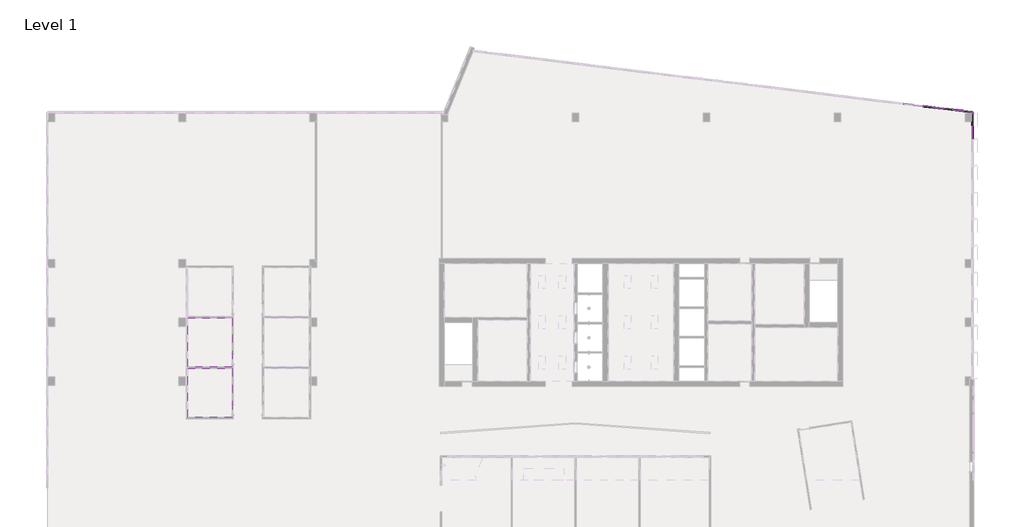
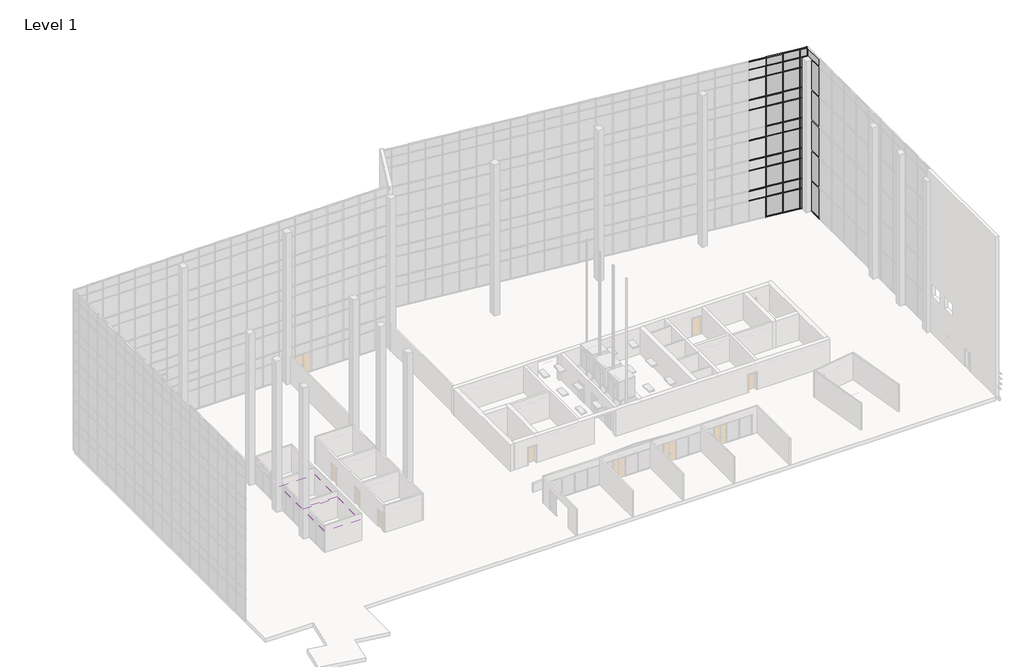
# One storey, part 22 of 23: 73 members, 39 plates, 2 coverings.
"""IFC4 building model written with IfcOpenShell, lengths in millimetres."""

from ifc_helpers import new_model, si_unit, frame, origin, place, context, project, spatial, polyline, outline, extrude, transform, mapped, element, save
from components import member_eccb456b, member_2b49869a, member_f92b8aa2, member_810865a4, member_f0fea5a5, member_6d5c3e5e, member_9764dd38, member_b8a9be14, member_51d7af99, member_28d637ce, member_84e75425, member_62aeda4f, member_2ab0c01c, system_panel_glazed_14c75400, system_panel_glazed_cc37a7cc, system_panel_glazed_4e55321f, system_panel_glazed_949c9f91, system_panel_solid_5dfe6f83, system_panel_solid_e25e2004, system_panel_solid_b7551183, system_panel_solid_72787f54, system_panel_solid_2f76c253, system_panel_solid_3860f7db

model = new_model("IFC4")

# Units and contexts
model_context = context("Model", 3, world=origin())
ifc_project = project(units=[si_unit("LENGTHUNIT", "METRE", prefix="MILLI")], contexts=[model_context])

# Site, building, storey
site = spatial("IfcSite", under=ifc_project)
building = spatial("IfcBuilding", under=site)
storey = spatial("IfcBuildingStorey", under=building, Name="Level 1", Elevation=0.0)

# Coverings
placement = place(None, origin())
element("IfcCovering", 1, ObjectType="2' x 2' ACT System", at=placement, inside=storey, context=model_context, shape_type="SweptSolid", body=[
    extrude(outline(polyline([(-51987.0856498, -17655.5103492), (-56000.2856498, -17655.5103492), (-56000.2856498, -13210.5103492), (-51987.0856498, -13210.5103492), (-51987.0856498, -17655.5103492)])), frame((0.0, 0.0, 2438.4), z_axis=(0.0, 0.0, 1.0), x_axis=(1.0, 0.0, 0.0)), (0.0, 0.0, 1.0), 57.15),
])
element("IfcCovering", 2, ObjectType="2' x 2' ACT System", at=placement, inside=storey, context=model_context, shape_type="SweptSolid", body=[
    extrude(outline(polyline([(-56000.2856498, -13083.5103492), (-56000.2856498, -8638.5103492), (-51987.0856498, -8638.5103492), (-51987.0856498, -13083.5103492), (-56000.2856498, -13083.5103492)])), frame((0.0, 0.0, 2438.4), z_axis=(0.0, 0.0, 1.0), x_axis=(1.0, 0.0, 0.0)), (0.0, 0.0, 1.0), 57.15),
])

# Members
member_shape = member_eccb456b(model_context)
element("IfcMember", 3, ObjectType="Quad Corner Mullion : 5\" x 5\" Quad Corner", at=placement, inside=storey, context=model_context, shape_type="MappedRepresentation", body=[
    mapped(member_shape, transform((15106.8054088, 9928.5486536, 0.0), x_axis=(0.0, 0.0, -1.0), y_axis=(-1.0, 0.0, 0.0), z_axis=(0.0, 1.0, 0.0))),
])
member_2_shape = member_2b49869a(model_context)
element("IfcMember", 4, ObjectType="Rectangular Mullion : 2.5\" x 5\" rectangular", at=placement, inside=storey, context=model_context, shape_type="MappedRepresentation", body=[
    mapped(member_2_shape, transform((12451.1844641, 10342.5479595, 2438.4), x_axis=(0.9925461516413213, -0.12186934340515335, 0.0), y_axis=(-0.12186934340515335, -0.9925461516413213, 0.0), z_axis=(0.0, 0.0, -1.0))),
])
member_3_shape = member_f92b8aa2(model_context)
element("IfcMember", 5, ObjectType="Rectangular Mullion : 2.5\" x 5\" rectangular", at=placement, inside=storey, context=model_context, shape_type="MappedRepresentation", body=[
    mapped(member_3_shape, transform((14266.3528662, 10119.6733043, 18288.0), x_axis=(0.9925461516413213, -0.12186934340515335, 0.0), y_axis=(-0.12186934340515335, -0.9925461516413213, 0.0), z_axis=(0.0, 0.0, -1.0))),
])
element("IfcMember", 6, ObjectType="Rectangular Mullion : 2.5\" x 5\" rectangular", at=placement, inside=storey, context=model_context, shape_type="MappedRepresentation", body=[
    mapped(member_3_shape, transform((12451.1844641, 10342.5479595, 18288.0), x_axis=(0.9925461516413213, -0.12186934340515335, 0.0), y_axis=(-0.12186934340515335, -0.9925461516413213, 0.0), z_axis=(0.0, 0.0, -1.0))),
])
member_4_shape = member_810865a4(model_context)
element("IfcMember", 7, ObjectType="Rectangular Mullion : 2.5\" x 5\" rectangular", at=placement, inside=storey, context=model_context, shape_type="MappedRepresentation", body=[
    mapped(member_4_shape, transform((14266.3528662, 10119.6733043, 14630.4), x_axis=(0.9925461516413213, -0.12186934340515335, 0.0), y_axis=(-0.12186934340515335, -0.9925461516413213, 0.0), z_axis=(0.0, 0.0, -1.0))),
])
element("IfcMember", 8, ObjectType="Rectangular Mullion : 2.5\" x 5\" rectangular", at=placement, inside=storey, context=model_context, shape_type="MappedRepresentation", body=[
    mapped(member_4_shape, transform((14266.3528662, 10119.6733043, 10972.8), x_axis=(0.9925461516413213, -0.12186934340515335, 0.0), y_axis=(-0.12186934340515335, -0.9925461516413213, 0.0), z_axis=(0.0, 0.0, -1.0))),
])
element("IfcMember", 9, ObjectType="Rectangular Mullion : 2.5\" x 5\" rectangular", at=placement, inside=storey, context=model_context, shape_type="MappedRepresentation", body=[
    mapped(member_4_shape, transform((14266.3528662, 10119.6733043, 7315.2), x_axis=(0.9925461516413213, -0.12186934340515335, 0.0), y_axis=(-0.12186934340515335, -0.9925461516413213, 0.0), z_axis=(0.0, 0.0, -1.0))),
])
element("IfcMember", 10, ObjectType="Rectangular Mullion : 2.5\" x 5\" rectangular", at=placement, inside=storey, context=model_context, shape_type="MappedRepresentation", body=[
    mapped(member_4_shape, transform((14266.3528662, 10119.6733043, 3657.6), x_axis=(0.9925461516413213, -0.12186934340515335, 0.0), y_axis=(-0.12186934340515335, -0.9925461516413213, 0.0), z_axis=(0.0, 0.0, -1.0))),
])
element("IfcMember", 11, ObjectType="Rectangular Mullion : 2.5\" x 5\" rectangular", at=placement, inside=storey, context=model_context, shape_type="MappedRepresentation", body=[
    mapped(member_4_shape, transform((12451.1844641, 10342.5479595, 14630.4), x_axis=(0.9925461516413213, -0.12186934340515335, 0.0), y_axis=(-0.12186934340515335, -0.9925461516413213, 0.0), z_axis=(0.0, 0.0, -1.0))),
])
element("IfcMember", 12, ObjectType="Rectangular Mullion : 2.5\" x 5\" rectangular", at=placement, inside=storey, context=model_context, shape_type="MappedRepresentation", body=[
    mapped(member_4_shape, transform((12451.1844641, 10342.5479595, 10972.8), x_axis=(0.9925461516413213, -0.12186934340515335, 0.0), y_axis=(-0.12186934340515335, -0.9925461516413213, 0.0), z_axis=(0.0, 0.0, -1.0))),
])
element("IfcMember", 13, ObjectType="Rectangular Mullion : 2.5\" x 5\" rectangular", at=placement, inside=storey, context=model_context, shape_type="MappedRepresentation", body=[
    mapped(member_4_shape, transform((12451.1844641, 10342.5479595, 7315.2), x_axis=(0.9925461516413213, -0.12186934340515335, 0.0), y_axis=(-0.12186934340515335, -0.9925461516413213, 0.0), z_axis=(0.0, 0.0, -1.0))),
])
element("IfcMember", 14, ObjectType="Rectangular Mullion : 2.5\" x 5\" rectangular", at=placement, inside=storey, context=model_context, shape_type="MappedRepresentation", body=[
    mapped(member_4_shape, transform((12451.1844641, 10342.5479595, 3657.6), x_axis=(0.9925461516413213, -0.12186934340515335, 0.0), y_axis=(-0.12186934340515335, -0.9925461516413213, 0.0), z_axis=(0.0, 0.0, -1.0))),
])
element("IfcMember", 15, ObjectType="Rectangular Mullion : 2.5\" x 5\" rectangular", at=placement, inside=storey, context=model_context, shape_type="MappedRepresentation", body=[
    mapped(member_4_shape, transform((10636.016062, 10565.4226148, 14630.4), x_axis=(0.9925461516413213, -0.12186934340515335, 0.0), y_axis=(-0.12186934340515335, -0.9925461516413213, 0.0), z_axis=(0.0, 0.0, -1.0))),
])
element("IfcMember", 16, ObjectType="Rectangular Mullion : 2.5\" x 5\" rectangular", at=placement, inside=storey, context=model_context, shape_type="MappedRepresentation", body=[
    mapped(member_4_shape, transform((10636.016062, 10565.4226148, 10972.8), x_axis=(0.9925461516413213, -0.12186934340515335, 0.0), y_axis=(-0.12186934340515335, -0.9925461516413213, 0.0), z_axis=(0.0, 0.0, -1.0))),
])
element("IfcMember", 17, ObjectType="Rectangular Mullion : 2.5\" x 5\" rectangular", at=placement, inside=storey, context=model_context, shape_type="MappedRepresentation", body=[
    mapped(member_4_shape, transform((10636.016062, 10565.4226148, 7315.2), x_axis=(0.9925461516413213, -0.12186934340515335, 0.0), y_axis=(-0.12186934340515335, -0.9925461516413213, 0.0), z_axis=(0.0, 0.0, -1.0))),
])
element("IfcMember", 18, ObjectType="Rectangular Mullion : 2.5\" x 5\" rectangular", at=placement, inside=storey, context=model_context, shape_type="MappedRepresentation", body=[
    mapped(member_4_shape, transform((10636.016062, 10565.4226148, 3657.6), x_axis=(0.9925461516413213, -0.12186934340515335, 0.0), y_axis=(-0.12186934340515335, -0.9925461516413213, 0.0), z_axis=(0.0, 0.0, -1.0))),
])
member_5_shape = member_f0fea5a5(model_context)
element("IfcMember", 19, ObjectType="Rectangular Mullion : 2.5\" x 5\" rectangular", at=placement, inside=storey, context=model_context, shape_type="MappedRepresentation", body=[
    mapped(member_5_shape, transform((12451.1844641, 10342.5479595, 0.0), x_axis=(0.9925461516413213, -0.12186934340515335, 0.0), y_axis=(-0.12186934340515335, -0.9925461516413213, 0.0), z_axis=(0.0, 0.0, -1.0))),
])
element("IfcMember", 20, ObjectType="Rectangular Mullion : 2.5\" x 5\" rectangular", at=placement, inside=storey, context=model_context, shape_type="MappedRepresentation", body=[
    mapped(member_5_shape, transform((10636.016062, 10565.4226148, 0.0), x_axis=(0.9925461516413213, -0.12186934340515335, 0.0), y_axis=(-0.12186934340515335, -0.9925461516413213, 0.0), z_axis=(0.0, 0.0, -1.0))),
])
element("IfcMember", 21, ObjectType="Rectangular Mullion : 2.5\" x 5\" rectangular", at=placement, inside=storey, context=model_context, shape_type="MappedRepresentation", body=[
    mapped(member_5_shape, transform((14266.3528662, 10119.6733043, 0.0), x_axis=(0.9925461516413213, -0.12186934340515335, 0.0), y_axis=(-0.12186934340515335, -0.9925461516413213, 0.0), z_axis=(0.0, 0.0, -1.0))),
])
element("IfcMember", 22, ObjectType="Rectangular Mullion : 2.5\" x 5\" rectangular", at=placement, inside=storey, context=model_context, shape_type="MappedRepresentation", body=[
    mapped(member_2_shape, transform((14266.3528662, 10119.6733043, 2438.4), x_axis=(0.9925461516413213, -0.12186934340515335, 0.0), y_axis=(-0.12186934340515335, -0.9925461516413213, 0.0), z_axis=(0.0, 0.0, -1.0))),
])
member_6_shape = member_6d5c3e5e(model_context)
element("IfcMember", 23, ObjectType="Rectangular Mullion : 2.5\" x 5\" rectangular", at=placement, inside=storey, context=model_context, shape_type="MappedRepresentation", body=[
    mapped(member_6_shape, transform((14234.8395259, 10123.542656, 19304.0), x_axis=(0.0, 0.0, 1.0), y_axis=(-0.12186934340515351, -0.9925461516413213, 0.0), z_axis=(0.9925461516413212, -0.1218693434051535, 0.0))),
])
element("IfcMember", 24, ObjectType="Rectangular Mullion : 2.5\" x 5\" rectangular", at=placement, inside=storey, context=model_context, shape_type="MappedRepresentation", body=[
    mapped(member_6_shape, transform((12419.6711238, 10346.4173112, 19304.0), x_axis=(0.0, 0.0, 1.0), y_axis=(-0.12186934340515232, -0.9925461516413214, 0.0), z_axis=(0.9925461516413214, -0.12186934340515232, 0.0))),
])
element("IfcMember", 25, ObjectType="Rectangular Mullion : 2.5\" x 5\" rectangular", at=placement, inside=storey, context=model_context, shape_type="MappedRepresentation", body=[
    mapped(member_6_shape, transform((10604.5027217, 10569.2919664, 19304.0), x_axis=(0.0, 0.0, 1.0), y_axis=(-0.12186934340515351, -0.9925461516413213, 0.0), z_axis=(0.9925461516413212, -0.1218693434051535, 0.0))),
])
member_7_shape = member_9764dd38(model_context)
element("IfcMember", 26, ObjectType="Rectangular Mullion : 2.5\" x 5\" rectangular", at=placement, inside=storey, context=model_context, shape_type="MappedRepresentation", body=[
    mapped(member_7_shape, transform((14234.8395259, 10123.542656, 17068.8), x_axis=(0.0, 0.0, 1.0), y_axis=(-0.12186934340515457, -0.9925461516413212, 0.0), z_axis=(0.9925461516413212, -0.12186934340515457, 0.0))),
])
element("IfcMember", 27, ObjectType="Rectangular Mullion : 2.5\" x 5\" rectangular", at=placement, inside=storey, context=model_context, shape_type="MappedRepresentation", body=[
    mapped(member_7_shape, transform((12419.6711238, 10346.4173112, 17068.8), x_axis=(0.0, 0.0, 1.0), y_axis=(-0.12186934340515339, -0.9925461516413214, 0.0), z_axis=(0.9925461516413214, -0.12186934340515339, 0.0))),
])
element("IfcMember", 28, ObjectType="Rectangular Mullion : 2.5\" x 5\" rectangular", at=placement, inside=storey, context=model_context, shape_type="MappedRepresentation", body=[
    mapped(member_7_shape, transform((10604.5027217, 10569.2919664, 17068.8), x_axis=(0.0, 0.0, 1.0), y_axis=(-0.12186934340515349, -0.9925461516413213, 0.0), z_axis=(0.9925461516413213, -0.12186934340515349, 0.0))),
])
element("IfcMember", 29, ObjectType="Rectangular Mullion : 2.5\" x 5\" rectangular", at=placement, inside=storey, context=model_context, shape_type="MappedRepresentation", body=[
    mapped(member_7_shape, transform((14234.8395259, 10123.542656, 13411.2), x_axis=(0.0, 0.0, 1.0), y_axis=(-0.12186934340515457, -0.9925461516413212, 0.0), z_axis=(0.9925461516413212, -0.12186934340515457, 0.0))),
])
element("IfcMember", 30, ObjectType="Rectangular Mullion : 2.5\" x 5\" rectangular", at=placement, inside=storey, context=model_context, shape_type="MappedRepresentation", body=[
    mapped(member_7_shape, transform((12419.6711238, 10346.4173112, 13411.2), x_axis=(0.0, 0.0, 1.0), y_axis=(-0.12186934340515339, -0.9925461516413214, 0.0), z_axis=(0.9925461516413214, -0.12186934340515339, 0.0))),
])
element("IfcMember", 31, ObjectType="Rectangular Mullion : 2.5\" x 5\" rectangular", at=placement, inside=storey, context=model_context, shape_type="MappedRepresentation", body=[
    mapped(member_7_shape, transform((10604.5027217, 10569.2919664, 13411.2), x_axis=(0.0, 0.0, 1.0), y_axis=(-0.12186934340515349, -0.9925461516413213, 0.0), z_axis=(0.9925461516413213, -0.12186934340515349, 0.0))),
])
element("IfcMember", 32, ObjectType="Rectangular Mullion : 2.5\" x 5\" rectangular", at=placement, inside=storey, context=model_context, shape_type="MappedRepresentation", body=[
    mapped(member_7_shape, transform((14234.8395259, 10123.542656, 9753.6), x_axis=(0.0, 0.0, 1.0), y_axis=(-0.12186934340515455, -0.9925461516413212, 0.0), z_axis=(0.9925461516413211, -0.12186934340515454, 0.0))),
])
element("IfcMember", 33, ObjectType="Rectangular Mullion : 2.5\" x 5\" rectangular", at=placement, inside=storey, context=model_context, shape_type="MappedRepresentation", body=[
    mapped(member_7_shape, transform((12419.6711238, 10346.4173112, 9753.6), x_axis=(0.0, 0.0, 1.0), y_axis=(-0.12186934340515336, -0.9925461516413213, 0.0), z_axis=(0.9925461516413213, -0.12186934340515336, 0.0))),
])
element("IfcMember", 34, ObjectType="Rectangular Mullion : 2.5\" x 5\" rectangular", at=placement, inside=storey, context=model_context, shape_type="MappedRepresentation", body=[
    mapped(member_7_shape, transform((10604.5027217, 10569.2919664, 9753.6), x_axis=(0.0, 0.0, 1.0), y_axis=(-0.12186934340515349, -0.9925461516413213, 0.0), z_axis=(0.9925461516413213, -0.12186934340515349, 0.0))),
])
element("IfcMember", 35, ObjectType="Rectangular Mullion : 2.5\" x 5\" rectangular", at=placement, inside=storey, context=model_context, shape_type="MappedRepresentation", body=[
    mapped(member_7_shape, transform((14234.8395259, 10123.542656, 6096.0), x_axis=(0.0, 0.0, 1.0), y_axis=(-0.12186934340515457, -0.9925461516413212, 0.0), z_axis=(0.9925461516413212, -0.12186934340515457, 0.0))),
])
element("IfcMember", 36, ObjectType="Rectangular Mullion : 2.5\" x 5\" rectangular", at=placement, inside=storey, context=model_context, shape_type="MappedRepresentation", body=[
    mapped(member_7_shape, transform((12419.6711238, 10346.4173112, 6096.0), x_axis=(0.0, 0.0, 1.0), y_axis=(-0.12186934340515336, -0.9925461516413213, 0.0), z_axis=(0.9925461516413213, -0.12186934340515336, 0.0))),
])
element("IfcMember", 37, ObjectType="Rectangular Mullion : 2.5\" x 5\" rectangular", at=placement, inside=storey, context=model_context, shape_type="MappedRepresentation", body=[
    mapped(member_7_shape, transform((10604.5027217, 10569.2919664, 6096.0), x_axis=(0.0, 0.0, 1.0), y_axis=(-0.12186934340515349, -0.9925461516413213, 0.0), z_axis=(0.9925461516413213, -0.12186934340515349, 0.0))),
])
element("IfcMember", 38, ObjectType="Rectangular Mullion : 2.5\" x 5\" rectangular", at=placement, inside=storey, context=model_context, shape_type="MappedRepresentation", body=[
    mapped(member_7_shape, transform((14234.8395259, 10123.542656, 2470.15), x_axis=(0.0, 0.0, 1.0), y_axis=(-0.12186934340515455, -0.9925461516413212, 0.0), z_axis=(0.9925461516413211, -0.12186934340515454, 0.0))),
])
element("IfcMember", 39, ObjectType="Rectangular Mullion : 2.5\" x 5\" rectangular", at=placement, inside=storey, context=model_context, shape_type="MappedRepresentation", body=[
    mapped(member_7_shape, transform((12419.6711238, 10346.4173112, 2470.15), x_axis=(0.0, 0.0, 1.0), y_axis=(-0.12186934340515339, -0.9925461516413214, 0.0), z_axis=(0.9925461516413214, -0.12186934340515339, 0.0))),
])
element("IfcMember", 40, ObjectType="Rectangular Mullion : 2.5\" x 5\" rectangular", at=placement, inside=storey, context=model_context, shape_type="MappedRepresentation", body=[
    mapped(member_7_shape, transform((10604.5027217, 10569.2919664, 2470.15), x_axis=(0.0, 0.0, 1.0), y_axis=(-0.12186934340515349, -0.9925461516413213, 0.0), z_axis=(0.9925461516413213, -0.12186934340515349, 0.0))),
])
member_8_shape = member_b8a9be14(model_context)
element("IfcMember", 41, ObjectType="Rectangular Mullion : 2.5\" x 5\" rectangular", at=placement, inside=storey, context=model_context, shape_type="MappedRepresentation", body=[
    mapped(member_8_shape, transform((15019.5307718, 10027.1946859, 19304.0), x_axis=(0.0, 0.0, 1.0), y_axis=(-0.12186934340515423, -0.9925461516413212, 0.0), z_axis=(0.9925461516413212, -0.12186934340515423, 0.0))),
])
member_9_shape = member_51d7af99(model_context)
element("IfcMember", 42, ObjectType="Rectangular Mullion : 2.5\" x 5\" rectangular", at=placement, inside=storey, context=model_context, shape_type="MappedRepresentation", body=[
    mapped(member_9_shape, transform((15019.5307718, 10027.1946859, 17068.8), x_axis=(0.0, 0.0, 1.0), y_axis=(-0.12186934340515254, -0.9925461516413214, 0.0), z_axis=(0.9925461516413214, -0.12186934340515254, 0.0))),
])
element("IfcMember", 43, ObjectType="Rectangular Mullion : 2.5\" x 5\" rectangular", at=placement, inside=storey, context=model_context, shape_type="MappedRepresentation", body=[
    mapped(member_9_shape, transform((15019.5307718, 10027.1946859, 13411.2), x_axis=(0.0, 0.0, 1.0), y_axis=(-0.12186934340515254, -0.9925461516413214, 0.0), z_axis=(0.9925461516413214, -0.12186934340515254, 0.0))),
])
element("IfcMember", 44, ObjectType="Rectangular Mullion : 2.5\" x 5\" rectangular", at=placement, inside=storey, context=model_context, shape_type="MappedRepresentation", body=[
    mapped(member_9_shape, transform((15019.5307718, 10027.1946859, 9753.6), x_axis=(0.0, 0.0, 1.0), y_axis=(-0.12186934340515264, -0.9925461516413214, 0.0), z_axis=(0.9925461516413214, -0.12186934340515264, 0.0))),
])
element("IfcMember", 45, ObjectType="Rectangular Mullion : 2.5\" x 5\" rectangular", at=placement, inside=storey, context=model_context, shape_type="MappedRepresentation", body=[
    mapped(member_9_shape, transform((15019.5307718, 10027.1946859, 6096.0), x_axis=(0.0, 0.0, 1.0), y_axis=(-0.12186934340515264, -0.9925461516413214, 0.0), z_axis=(0.9925461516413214, -0.12186934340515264, 0.0))),
])
element("IfcMember", 46, ObjectType="Rectangular Mullion : 2.5\" x 5\" rectangular", at=placement, inside=storey, context=model_context, shape_type="MappedRepresentation", body=[
    mapped(member_6_shape, transform((12482.6978044, 10338.6786079, 0.0), x_axis=(0.0, 0.0, -1.0), y_axis=(-0.12186934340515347, -0.9925461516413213, 0.0), z_axis=(-0.9925461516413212, 0.12186934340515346, 0.0))),
])
element("IfcMember", 47, ObjectType="Rectangular Mullion : 2.5\" x 5\" rectangular", at=placement, inside=storey, context=model_context, shape_type="MappedRepresentation", body=[
    mapped(member_6_shape, transform((10667.5294023, 10561.5532631, 0.0), x_axis=(0.0, 0.0, -1.0), y_axis=(-0.12186934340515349, -0.9925461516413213, 0.0), z_axis=(-0.9925461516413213, 0.12186934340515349, 0.0))),
])
element("IfcMember", 48, ObjectType="Rectangular Mullion : 2.5\" x 5\" rectangular", at=placement, inside=storey, context=model_context, shape_type="MappedRepresentation", body=[
    mapped(member_8_shape, transform((14297.8662065, 10115.8039527, 0.0), x_axis=(0.0, 0.0, -1.0), y_axis=(-0.12186934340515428, -0.9925461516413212, 0.0), z_axis=(-0.9925461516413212, 0.12186934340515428, 0.0))),
])
element("IfcMember", 49, ObjectType="Rectangular Mullion : 2.5\" x 5\" rectangular", at=placement, inside=storey, context=model_context, shape_type="MappedRepresentation", body=[
    mapped(member_7_shape, transform((14234.8395259, 10123.542656, 7315.2), x_axis=(0.0, 0.0, 1.0), y_axis=(-0.12186934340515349, -0.9925461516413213, 0.0), z_axis=(0.9925461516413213, -0.12186934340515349, 0.0))),
])
element("IfcMember", 50, ObjectType="Rectangular Mullion : 2.5\" x 5\" rectangular", at=placement, inside=storey, context=model_context, shape_type="MappedRepresentation", body=[
    mapped(member_7_shape, transform((12419.6711238, 10346.4173112, 7315.2), x_axis=(0.0, 0.0, 1.0), y_axis=(-0.12186934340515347, -0.9925461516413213, 0.0), z_axis=(0.9925461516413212, -0.12186934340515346, 0.0))),
])
element("IfcMember", 51, ObjectType="Rectangular Mullion : 2.5\" x 5\" rectangular", at=placement, inside=storey, context=model_context, shape_type="MappedRepresentation", body=[
    mapped(member_7_shape, transform((14234.8395259, 10123.542656, 10972.8), x_axis=(0.0, 0.0, 1.0), y_axis=(-0.12186934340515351, -0.9925461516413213, 0.0), z_axis=(0.9925461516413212, -0.1218693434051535, 0.0))),
])
element("IfcMember", 52, ObjectType="Rectangular Mullion : 2.5\" x 5\" rectangular", at=placement, inside=storey, context=model_context, shape_type="MappedRepresentation", body=[
    mapped(member_7_shape, transform((12419.6711238, 10346.4173112, 10972.8), x_axis=(0.0, 0.0, 1.0), y_axis=(-0.12186934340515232, -0.9925461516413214, 0.0), z_axis=(0.9925461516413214, -0.12186934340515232, 0.0))),
])
element("IfcMember", 53, ObjectType="Rectangular Mullion : 2.5\" x 5\" rectangular", at=placement, inside=storey, context=model_context, shape_type="MappedRepresentation", body=[
    mapped(member_7_shape, transform((10604.5027217, 10569.2919664, 3657.6), x_axis=(0.0, 0.0, 1.0), y_axis=(-0.12186934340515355, -0.9925461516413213, 0.0), z_axis=(0.9925461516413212, -0.12186934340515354, 0.0))),
])
element("IfcMember", 54, ObjectType="Rectangular Mullion : 2.5\" x 5\" rectangular", at=placement, inside=storey, context=model_context, shape_type="MappedRepresentation", body=[
    mapped(member_7_shape, transform((12419.6711238, 10346.4173112, 3657.6), x_axis=(0.0, 0.0, 1.0), y_axis=(-0.12186934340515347, -0.9925461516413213, 0.0), z_axis=(0.9925461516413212, -0.12186934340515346, 0.0))),
])
element("IfcMember", 55, ObjectType="Rectangular Mullion : 2.5\" x 5\" rectangular", at=placement, inside=storey, context=model_context, shape_type="MappedRepresentation", body=[
    mapped(member_7_shape, transform((14234.8395259, 10123.542656, 3657.6), x_axis=(0.0, 0.0, 1.0), y_axis=(-0.12186934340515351, -0.9925461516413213, 0.0), z_axis=(0.9925461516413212, -0.1218693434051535, 0.0))),
])
element("IfcMember", 56, ObjectType="Rectangular Mullion : 2.5\" x 5\" rectangular", at=placement, inside=storey, context=model_context, shape_type="MappedRepresentation", body=[
    mapped(member_7_shape, transform((14234.8395259, 10123.542656, 14630.4), x_axis=(0.0, 0.0, 1.0), y_axis=(-0.12186934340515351, -0.9925461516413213, 0.0), z_axis=(0.9925461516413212, -0.1218693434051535, 0.0))),
])
element("IfcMember", 57, ObjectType="Rectangular Mullion : 2.5\" x 5\" rectangular", at=placement, inside=storey, context=model_context, shape_type="MappedRepresentation", body=[
    mapped(member_7_shape, transform((12419.6711238, 10346.4173112, 14630.4), x_axis=(0.0, 0.0, 1.0), y_axis=(-0.12186934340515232, -0.9925461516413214, 0.0), z_axis=(0.9925461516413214, -0.12186934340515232, 0.0))),
])
element("IfcMember", 58, ObjectType="Rectangular Mullion : 2.5\" x 5\" rectangular", at=placement, inside=storey, context=model_context, shape_type="MappedRepresentation", body=[
    mapped(member_7_shape, transform((10604.5027217, 10569.2919664, 14630.4), x_axis=(0.0, 0.0, 1.0), y_axis=(-0.12186934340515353, -0.9925461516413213, 0.0), z_axis=(0.9925461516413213, -0.12186934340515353, 0.0))),
])
element("IfcMember", 59, ObjectType="Rectangular Mullion : 2.5\" x 5\" rectangular", at=placement, inside=storey, context=model_context, shape_type="MappedRepresentation", body=[
    mapped(member_7_shape, transform((10604.5027217, 10569.2919664, 7315.2), x_axis=(0.0, 0.0, 1.0), y_axis=(-0.12186934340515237, -0.9925461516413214, 0.0), z_axis=(0.9925461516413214, -0.12186934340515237, 0.0))),
])
element("IfcMember", 60, ObjectType="Rectangular Mullion : 2.5\" x 5\" rectangular", at=placement, inside=storey, context=model_context, shape_type="MappedRepresentation", body=[
    mapped(member_7_shape, transform((14234.8395259, 10123.542656, 18288.0), x_axis=(0.0, 0.0, 1.0), y_axis=(-0.12186934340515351, -0.9925461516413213, 0.0), z_axis=(0.9925461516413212, -0.1218693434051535, 0.0))),
])
element("IfcMember", 61, ObjectType="Rectangular Mullion : 2.5\" x 5\" rectangular", at=placement, inside=storey, context=model_context, shape_type="MappedRepresentation", body=[
    mapped(member_7_shape, transform((12419.6711238, 10346.4173112, 18288.0), x_axis=(0.0, 0.0, 1.0), y_axis=(-0.12186934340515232, -0.9925461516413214, 0.0), z_axis=(0.9925461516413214, -0.12186934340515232, 0.0))),
])
element("IfcMember", 62, ObjectType="Rectangular Mullion : 2.5\" x 5\" rectangular", at=placement, inside=storey, context=model_context, shape_type="MappedRepresentation", body=[
    mapped(member_7_shape, transform((10604.5027217, 10569.2919664, 18288.0), x_axis=(0.0, 0.0, 1.0), y_axis=(-0.12186934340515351, -0.9925461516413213, 0.0), z_axis=(0.9925461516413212, -0.1218693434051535, 0.0))),
])
element("IfcMember", 63, ObjectType="Rectangular Mullion : 2.5\" x 5\" rectangular", at=placement, inside=storey, context=model_context, shape_type="MappedRepresentation", body=[
    mapped(member_9_shape, transform((15019.5307718, 10027.1946859, 7315.2), x_axis=(0.0, 0.0, 1.0), y_axis=(-0.12186934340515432, -0.9925461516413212, 0.0), z_axis=(0.9925461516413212, -0.12186934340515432, 0.0))),
])
element("IfcMember", 64, ObjectType="Rectangular Mullion : 2.5\" x 5\" rectangular", at=placement, inside=storey, context=model_context, shape_type="MappedRepresentation", body=[
    mapped(member_9_shape, transform((15019.5307718, 10027.1946859, 10972.8), x_axis=(0.0, 0.0, 1.0), y_axis=(-0.12186934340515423, -0.9925461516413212, 0.0), z_axis=(0.9925461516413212, -0.12186934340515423, 0.0))),
])
element("IfcMember", 65, ObjectType="Rectangular Mullion : 2.5\" x 5\" rectangular", at=placement, inside=storey, context=model_context, shape_type="MappedRepresentation", body=[
    mapped(member_9_shape, transform((15019.5307718, 10027.1946859, 3657.6), x_axis=(0.0, 0.0, 1.0), y_axis=(-0.12186934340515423, -0.9925461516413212, 0.0), z_axis=(0.9925461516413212, -0.12186934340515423, 0.0))),
])
element("IfcMember", 66, ObjectType="Rectangular Mullion : 2.5\" x 5\" rectangular", at=placement, inside=storey, context=model_context, shape_type="MappedRepresentation", body=[
    mapped(member_9_shape, transform((15019.5307718, 10027.1946859, 14630.4), x_axis=(0.0, 0.0, 1.0), y_axis=(-0.12186934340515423, -0.9925461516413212, 0.0), z_axis=(0.9925461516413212, -0.12186934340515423, 0.0))),
])
element("IfcMember", 67, ObjectType="Rectangular Mullion : 2.5\" x 5\" rectangular", at=placement, inside=storey, context=model_context, shape_type="MappedRepresentation", body=[
    mapped(member_9_shape, transform((15019.5307718, 10027.1946859, 18288.0), x_axis=(0.0, 0.0, 1.0), y_axis=(-0.12186934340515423, -0.9925461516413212, 0.0), z_axis=(0.9925461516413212, -0.12186934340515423, 0.0))),
])
element("IfcMember", 68, ObjectType="Rectangular Mullion : 2.5\" x 5\" rectangular", at=placement, inside=storey, context=model_context, shape_type="MappedRepresentation", body=[
    mapped(member_9_shape, transform((15019.5307718, 10027.1946859, 2438.4), x_axis=(0.0, 0.0, 1.0), y_axis=(-0.12186934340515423, -0.9925461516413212, 0.0), z_axis=(0.9925461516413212, -0.12186934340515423, 0.0))),
])
member_10_shape = member_28d637ce(model_context)
element("IfcMember", 69, ObjectType="V Corner Mullion : 5\" V Corner", at=placement, inside=storey, context=model_context, shape_type="MappedRepresentation", body=[
    mapped(member_10_shape, transform((15106.8054088, 10016.4787079, 0.0), x_axis=(0.9925461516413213, -0.12186934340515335, 0.0), y_axis=(-0.12186934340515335, -0.9925461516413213, 0.0), z_axis=(0.0, 0.0, -1.0))),
])
member_11_shape = member_84e75425(model_context)
element("IfcMember", 70, ObjectType="V Corner Mullion : 5\" V Corner", at=placement, inside=storey, context=model_context, shape_type="MappedRepresentation", body=[
    mapped(member_11_shape, transform((15106.8054088, 10016.4787079, 2438.4), x_axis=(0.9925461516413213, -0.12186934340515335, 0.0), y_axis=(-0.12186934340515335, -0.9925461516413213, 0.0), z_axis=(0.0, 0.0, -1.0))),
])
member_12_shape = member_62aeda4f(model_context)
element("IfcMember", 71, ObjectType="V Corner Mullion : 5\" V Corner", at=placement, inside=storey, context=model_context, shape_type="MappedRepresentation", body=[
    mapped(member_12_shape, transform((15106.8054088, 10016.4787079, 18288.0), x_axis=(0.9925461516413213, -0.12186934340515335, 0.0), y_axis=(-0.12186934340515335, -0.9925461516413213, 0.0), z_axis=(0.0, 0.0, -1.0))),
])
member_13_shape = member_2ab0c01c(model_context)
element("IfcMember", 72, ObjectType="V Corner Mullion : 5\" V Corner", at=placement, inside=storey, context=model_context, shape_type="MappedRepresentation", body=[
    mapped(member_13_shape, transform((15106.8054088, 10016.4787079, 14630.4), x_axis=(0.9925461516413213, -0.12186934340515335, 0.0), y_axis=(-0.12186934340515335, -0.9925461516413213, 0.0), z_axis=(0.0, 0.0, -1.0))),
])
element("IfcMember", 73, ObjectType="V Corner Mullion : 5\" V Corner", at=placement, inside=storey, context=model_context, shape_type="MappedRepresentation", body=[
    mapped(member_13_shape, transform((15106.8054088, 10016.4787079, 10972.8), x_axis=(0.9925461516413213, -0.12186934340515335, 0.0), y_axis=(-0.12186934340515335, -0.9925461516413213, 0.0), z_axis=(0.0, 0.0, -1.0))),
])
element("IfcMember", 74, ObjectType="V Corner Mullion : 5\" V Corner", at=placement, inside=storey, context=model_context, shape_type="MappedRepresentation", body=[
    mapped(member_13_shape, transform((15106.8054088, 10016.4787079, 7315.2), x_axis=(0.9925461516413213, -0.12186934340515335, 0.0), y_axis=(-0.12186934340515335, -0.9925461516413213, 0.0), z_axis=(0.0, 0.0, -1.0))),
])
element("IfcMember", 75, ObjectType="V Corner Mullion : 5\" V Corner", at=placement, inside=storey, context=model_context, shape_type="MappedRepresentation", body=[
    mapped(member_13_shape, transform((15106.8054088, 10016.4787079, 3657.6), x_axis=(0.9925461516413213, -0.12186934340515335, 0.0), y_axis=(-0.12186934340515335, -0.9925461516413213, 0.0), z_axis=(0.0, 0.0, -1.0))),
])

# Plates
system_panel_glazed_shape = system_panel_glazed_14c75400(model_context)
element("IfcPlate", 76, ObjectType="System Panel : Glazed", at=placement, inside=storey, context=model_context, shape_type="MappedRepresentation", body=[
    mapped(system_panel_glazed_shape, transform((13358.7686652, 10231.1106319, 14662.15), x_axis=(0.9925461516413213, -0.12186934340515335, 0.0), y_axis=(0.12186934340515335, 0.9925461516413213, 0.0), z_axis=(0.0, 0.0, 1.0))),
])
element("IfcPlate", 77, ObjectType="System Panel : Glazed", at=placement, inside=storey, context=model_context, shape_type="MappedRepresentation", body=[
    mapped(system_panel_glazed_shape, transform((11543.600263, 10453.9852872, 14662.15), x_axis=(0.9925461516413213, -0.12186934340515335, 0.0), y_axis=(0.12186934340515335, 0.9925461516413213, 0.0), z_axis=(0.0, 0.0, 1.0))),
])
element("IfcPlate", 78, ObjectType="System Panel : Glazed", at=placement, inside=storey, context=model_context, shape_type="MappedRepresentation", body=[
    mapped(system_panel_glazed_shape, transform((13358.7686652, 10231.1106319, 11004.55), x_axis=(0.9925461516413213, -0.12186934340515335, 0.0), y_axis=(0.12186934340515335, 0.9925461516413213, 0.0), z_axis=(0.0, 0.0, 1.0))),
])
element("IfcPlate", 79, ObjectType="System Panel : Glazed", at=placement, inside=storey, context=model_context, shape_type="MappedRepresentation", body=[
    mapped(system_panel_glazed_shape, transform((11543.600263, 10453.9852872, 11004.55), x_axis=(0.9925461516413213, -0.12186934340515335, 0.0), y_axis=(0.12186934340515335, 0.9925461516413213, 0.0), z_axis=(0.0, 0.0, 1.0))),
])
element("IfcPlate", 80, ObjectType="System Panel : Glazed", at=placement, inside=storey, context=model_context, shape_type="MappedRepresentation", body=[
    mapped(system_panel_glazed_shape, transform((13358.7686652, 10231.1106319, 7346.95), x_axis=(0.9925461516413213, -0.12186934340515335, 0.0), y_axis=(0.12186934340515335, 0.9925461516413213, 0.0), z_axis=(0.0, 0.0, 1.0))),
])
element("IfcPlate", 81, ObjectType="System Panel : Glazed", at=placement, inside=storey, context=model_context, shape_type="MappedRepresentation", body=[
    mapped(system_panel_glazed_shape, transform((11543.600263, 10453.9852872, 7346.95), x_axis=(0.9925461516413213, -0.12186934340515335, 0.0), y_axis=(0.12186934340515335, 0.9925461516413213, 0.0), z_axis=(0.0, 0.0, 1.0))),
])
element("IfcPlate", 82, ObjectType="System Panel : Glazed", at=placement, inside=storey, context=model_context, shape_type="MappedRepresentation", body=[
    mapped(system_panel_glazed_shape, transform((13358.7686652, 10231.1106319, 3689.35), x_axis=(0.9925461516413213, -0.12186934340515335, 0.0), y_axis=(0.12186934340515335, 0.9925461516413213, 0.0), z_axis=(0.0, 0.0, 1.0))),
])
element("IfcPlate", 83, ObjectType="System Panel : Glazed", at=placement, inside=storey, context=model_context, shape_type="MappedRepresentation", body=[
    mapped(system_panel_glazed_shape, transform((11543.600263, 10453.9852872, 3689.35), x_axis=(0.9925461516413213, -0.12186934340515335, 0.0), y_axis=(0.12186934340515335, 0.9925461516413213, 0.0), z_axis=(0.0, 0.0, 1.0))),
])
element("IfcPlate", 84, ObjectType="System Panel : Glazed", at=placement, inside=storey, context=model_context, shape_type="MappedRepresentation", body=[
    mapped(system_panel_glazed_shape, transform((13358.7686652, 10231.1106319, 63.5), x_axis=(0.9925461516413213, -0.12186934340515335, 0.0), y_axis=(0.12186934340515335, 0.9925461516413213, 0.0), z_axis=(0.0, 0.0, 1.0))),
])
element("IfcPlate", 85, ObjectType="System Panel : Glazed", at=placement, inside=storey, context=model_context, shape_type="MappedRepresentation", body=[
    mapped(system_panel_glazed_shape, transform((11543.600263, 10453.9852872, 63.5), x_axis=(0.9925461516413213, -0.12186934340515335, 0.0), y_axis=(0.12186934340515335, 0.9925461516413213, 0.0), z_axis=(0.0, 0.0, 1.0))),
])
system_panel_glazed_2_shape = system_panel_glazed_cc37a7cc(model_context)
element("IfcPlate", 86, ObjectType="System Panel : Glazed", at=placement, inside=storey, context=model_context, shape_type="MappedRepresentation", body=[
    mapped(system_panel_glazed_2_shape, transform((14658.6984892, 10071.4993193, 14662.15), x_axis=(0.9925461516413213, -0.12186934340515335, 0.0), y_axis=(0.12186934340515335, 0.9925461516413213, 0.0), z_axis=(0.0, 0.0, 1.0))),
])
element("IfcPlate", 87, ObjectType="System Panel : Glazed", at=placement, inside=storey, context=model_context, shape_type="MappedRepresentation", body=[
    mapped(system_panel_glazed_2_shape, transform((14658.6984892, 10071.4993193, 11004.55), x_axis=(0.9925461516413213, -0.12186934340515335, 0.0), y_axis=(0.12186934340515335, 0.9925461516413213, 0.0), z_axis=(0.0, 0.0, 1.0))),
])
element("IfcPlate", 88, ObjectType="System Panel : Glazed", at=placement, inside=storey, context=model_context, shape_type="MappedRepresentation", body=[
    mapped(system_panel_glazed_2_shape, transform((14658.6984892, 10071.4993193, 7346.95), x_axis=(0.9925461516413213, -0.12186934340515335, 0.0), y_axis=(0.12186934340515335, 0.9925461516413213, 0.0), z_axis=(0.0, 0.0, 1.0))),
])
element("IfcPlate", 89, ObjectType="System Panel : Glazed", at=placement, inside=storey, context=model_context, shape_type="MappedRepresentation", body=[
    mapped(system_panel_glazed_2_shape, transform((14658.6984892, 10071.4993193, 3689.35), x_axis=(0.9925461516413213, -0.12186934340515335, 0.0), y_axis=(0.12186934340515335, 0.9925461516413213, 0.0), z_axis=(0.0, 0.0, 1.0))),
])
system_panel_glazed_3_shape = system_panel_glazed_4e55321f(model_context)
element("IfcPlate", 90, ObjectType="System Panel : Glazed", at=placement, inside=storey, context=model_context, shape_type="MappedRepresentation", body=[
    mapped(system_panel_glazed_3_shape, transform((14658.6984892, 10071.4993193, 63.5), x_axis=(0.9925461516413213, -0.12186934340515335, 0.0), y_axis=(0.12186934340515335, 0.9925461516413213, 0.0), z_axis=(0.0, 0.0, 1.0))),
])
system_panel_glazed_4_shape = system_panel_glazed_949c9f91(model_context)
element("IfcPlate", 91, ObjectType="System Panel : Glazed", at=placement, inside=storey, context=model_context, shape_type="MappedRepresentation", body=[
    mapped(system_panel_glazed_4_shape, transform((15106.8054088, 8758.9233064, 40.7728811), x_axis=(0.0, -1.0, 0.0), y_axis=(1.0, 0.0, 0.0), z_axis=(0.0, 0.0, 1.0))),
])
element("IfcPlate", 92, ObjectType="System Panel : Glazed", at=placement, inside=storey, context=model_context, shape_type="MappedRepresentation", body=[
    mapped(system_panel_glazed_4_shape, transform((15106.8054088, 8758.9233064, 3698.3728811), x_axis=(0.0, -1.0, 0.0), y_axis=(1.0, 0.0, 0.0), z_axis=(0.0, 0.0, 1.0))),
])
element("IfcPlate", 93, ObjectType="System Panel : Glazed", at=placement, inside=storey, context=model_context, shape_type="MappedRepresentation", body=[
    mapped(system_panel_glazed_4_shape, transform((15106.8054088, 8758.9233064, 7355.9728811), x_axis=(0.0, -1.0, 0.0), y_axis=(1.0, 0.0, 0.0), z_axis=(0.0, 0.0, 1.0))),
])
element("IfcPlate", 94, ObjectType="System Panel : Glazed", at=placement, inside=storey, context=model_context, shape_type="MappedRepresentation", body=[
    mapped(system_panel_glazed_4_shape, transform((15106.8054088, 8758.9233064, 11013.5728811), x_axis=(0.0, -1.0, 0.0), y_axis=(1.0, 0.0, 0.0), z_axis=(0.0, 0.0, 1.0))),
])
element("IfcPlate", 95, ObjectType="System Panel : Glazed", at=placement, inside=storey, context=model_context, shape_type="MappedRepresentation", body=[
    mapped(system_panel_glazed_4_shape, transform((15106.8054088, 8758.9233064, 14671.1728811), x_axis=(0.0, -1.0, 0.0), y_axis=(1.0, 0.0, 0.0), z_axis=(0.0, 0.0, 1.0))),
])
system_panel_solid_shape = system_panel_solid_5dfe6f83(model_context)
element("IfcPlate", 96, ObjectType="System Panel : Solid", at=placement, inside=storey, context=model_context, shape_type="MappedRepresentation", body=[
    mapped(system_panel_solid_shape, transform((11543.600263, 10453.9852872, 18319.75), x_axis=(0.9925461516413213, -0.12186934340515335, 0.0), y_axis=(0.12186934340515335, 0.9925461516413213, 0.0), z_axis=(0.0, 0.0, 1.0))),
])
element("IfcPlate", 97, ObjectType="System Panel : Solid", at=placement, inside=storey, context=model_context, shape_type="MappedRepresentation", body=[
    mapped(system_panel_solid_shape, transform((13358.7686652, 10231.1106319, 18319.75), x_axis=(0.9925461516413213, -0.12186934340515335, 0.0), y_axis=(0.12186934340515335, 0.9925461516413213, 0.0), z_axis=(0.0, 0.0, 1.0))),
])
system_panel_solid_2_shape = system_panel_solid_e25e2004(model_context)
element("IfcPlate", 98, ObjectType="System Panel : Solid", at=placement, inside=storey, context=model_context, shape_type="MappedRepresentation", body=[
    mapped(system_panel_solid_2_shape, transform((13358.7686652, 10231.1106319, 17100.55), x_axis=(0.9925461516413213, -0.12186934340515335, 0.0), y_axis=(0.12186934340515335, 0.9925461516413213, 0.0), z_axis=(0.0, 0.0, 1.0))),
])
element("IfcPlate", 99, ObjectType="System Panel : Solid", at=placement, inside=storey, context=model_context, shape_type="MappedRepresentation", body=[
    mapped(system_panel_solid_2_shape, transform((11543.600263, 10453.9852872, 17100.55), x_axis=(0.9925461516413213, -0.12186934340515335, 0.0), y_axis=(0.12186934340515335, 0.9925461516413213, 0.0), z_axis=(0.0, 0.0, 1.0))),
])
element("IfcPlate", 100, ObjectType="System Panel : Solid", at=placement, inside=storey, context=model_context, shape_type="MappedRepresentation", body=[
    mapped(system_panel_solid_2_shape, transform((13358.7686652, 10231.1106319, 13442.95), x_axis=(0.9925461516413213, -0.12186934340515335, 0.0), y_axis=(0.12186934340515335, 0.9925461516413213, 0.0), z_axis=(0.0, 0.0, 1.0))),
])
element("IfcPlate", 101, ObjectType="System Panel : Solid", at=placement, inside=storey, context=model_context, shape_type="MappedRepresentation", body=[
    mapped(system_panel_solid_2_shape, transform((11543.600263, 10453.9852872, 13442.95), x_axis=(0.9925461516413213, -0.12186934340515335, 0.0), y_axis=(0.12186934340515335, 0.9925461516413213, 0.0), z_axis=(0.0, 0.0, 1.0))),
])
element("IfcPlate", 102, ObjectType="System Panel : Solid", at=placement, inside=storey, context=model_context, shape_type="MappedRepresentation", body=[
    mapped(system_panel_solid_2_shape, transform((13358.7686652, 10231.1106319, 9785.35), x_axis=(0.9925461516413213, -0.12186934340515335, 0.0), y_axis=(0.12186934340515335, 0.9925461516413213, 0.0), z_axis=(0.0, 0.0, 1.0))),
])
element("IfcPlate", 103, ObjectType="System Panel : Solid", at=placement, inside=storey, context=model_context, shape_type="MappedRepresentation", body=[
    mapped(system_panel_solid_2_shape, transform((11543.600263, 10453.9852872, 9785.35), x_axis=(0.9925461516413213, -0.12186934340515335, 0.0), y_axis=(0.12186934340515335, 0.9925461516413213, 0.0), z_axis=(0.0, 0.0, 1.0))),
])
element("IfcPlate", 104, ObjectType="System Panel : Solid", at=placement, inside=storey, context=model_context, shape_type="MappedRepresentation", body=[
    mapped(system_panel_solid_2_shape, transform((13358.7686652, 10231.1106319, 6127.75), x_axis=(0.9925461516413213, -0.12186934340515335, 0.0), y_axis=(0.12186934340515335, 0.9925461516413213, 0.0), z_axis=(0.0, 0.0, 1.0))),
])
element("IfcPlate", 105, ObjectType="System Panel : Solid", at=placement, inside=storey, context=model_context, shape_type="MappedRepresentation", body=[
    mapped(system_panel_solid_2_shape, transform((11543.600263, 10453.9852872, 6127.75), x_axis=(0.9925461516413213, -0.12186934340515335, 0.0), y_axis=(0.12186934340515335, 0.9925461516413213, 0.0), z_axis=(0.0, 0.0, 1.0))),
])
system_panel_solid_3_shape = system_panel_solid_b7551183(model_context)
element("IfcPlate", 106, ObjectType="System Panel : Solid", at=placement, inside=storey, context=model_context, shape_type="MappedRepresentation", body=[
    mapped(system_panel_solid_3_shape, transform((13358.7686652, 10231.1106319, 2501.9), x_axis=(0.9925461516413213, -0.12186934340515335, 0.0), y_axis=(0.12186934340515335, 0.9925461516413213, 0.0), z_axis=(0.0, 0.0, 1.0))),
])
element("IfcPlate", 107, ObjectType="System Panel : Solid", at=placement, inside=storey, context=model_context, shape_type="MappedRepresentation", body=[
    mapped(system_panel_solid_3_shape, transform((11543.600263, 10453.9852872, 2501.9), x_axis=(0.9925461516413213, -0.12186934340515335, 0.0), y_axis=(0.12186934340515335, 0.9925461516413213, 0.0), z_axis=(0.0, 0.0, 1.0))),
])
system_panel_solid_4_shape = system_panel_solid_72787f54(model_context)
element("IfcPlate", 108, ObjectType="System Panel : Solid", at=placement, inside=storey, context=model_context, shape_type="MappedRepresentation", body=[
    mapped(system_panel_solid_4_shape, transform((14658.6984892, 10071.4993193, 18319.75), x_axis=(0.9925461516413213, -0.12186934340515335, 0.0), y_axis=(0.12186934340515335, 0.9925461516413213, 0.0), z_axis=(0.0, 0.0, 1.0))),
])
system_panel_solid_5_shape = system_panel_solid_2f76c253(model_context)
element("IfcPlate", 109, ObjectType="System Panel : Solid", at=placement, inside=storey, context=model_context, shape_type="MappedRepresentation", body=[
    mapped(system_panel_solid_5_shape, transform((14658.6984892, 10071.4993193, 2470.15), x_axis=(0.9925461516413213, -0.12186934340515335, 0.0), y_axis=(0.12186934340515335, 0.9925461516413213, 0.0), z_axis=(0.0, 0.0, 1.0))),
])
element("IfcPlate", 110, ObjectType="System Panel : Solid", at=placement, inside=storey, context=model_context, shape_type="MappedRepresentation", body=[
    mapped(system_panel_solid_5_shape, transform((14658.6984892, 10071.4993193, 17100.55), x_axis=(0.9925461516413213, -0.12186934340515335, 0.0), y_axis=(0.12186934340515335, 0.9925461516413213, 0.0), z_axis=(0.0, 0.0, 1.0))),
])
element("IfcPlate", 111, ObjectType="System Panel : Solid", at=placement, inside=storey, context=model_context, shape_type="MappedRepresentation", body=[
    mapped(system_panel_solid_5_shape, transform((14658.6984892, 10071.4993193, 13442.95), x_axis=(0.9925461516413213, -0.12186934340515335, 0.0), y_axis=(0.12186934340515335, 0.9925461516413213, 0.0), z_axis=(0.0, 0.0, 1.0))),
])
element("IfcPlate", 112, ObjectType="System Panel : Solid", at=placement, inside=storey, context=model_context, shape_type="MappedRepresentation", body=[
    mapped(system_panel_solid_5_shape, transform((14658.6984892, 10071.4993193, 9785.35), x_axis=(0.9925461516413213, -0.12186934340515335, 0.0), y_axis=(0.12186934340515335, 0.9925461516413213, 0.0), z_axis=(0.0, 0.0, 1.0))),
])
element("IfcPlate", 113, ObjectType="System Panel : Solid", at=placement, inside=storey, context=model_context, shape_type="MappedRepresentation", body=[
    mapped(system_panel_solid_5_shape, transform((14658.6984892, 10071.4993193, 6127.75), x_axis=(0.9925461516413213, -0.12186934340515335, 0.0), y_axis=(0.12186934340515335, 0.9925461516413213, 0.0), z_axis=(0.0, 0.0, 1.0))),
])
system_panel_solid_6_shape = system_panel_solid_3860f7db(model_context)
element("IfcPlate", 114, ObjectType="System Panel : Solid", at=placement, inside=storey, context=model_context, shape_type="MappedRepresentation", body=[
    mapped(system_panel_solid_6_shape, transform((15106.8054088, 8758.9233064, 18328.7728811), x_axis=(0.0, -1.0, 0.0), y_axis=(1.0, 0.0, 0.0), z_axis=(0.0, 0.0, 1.0))),
])

save(model, "model.ifc")
